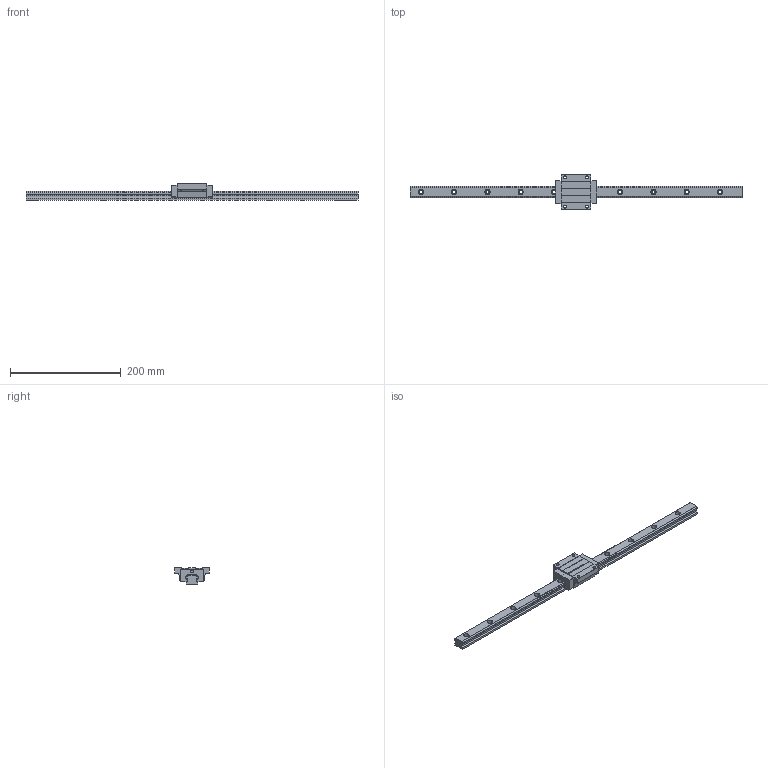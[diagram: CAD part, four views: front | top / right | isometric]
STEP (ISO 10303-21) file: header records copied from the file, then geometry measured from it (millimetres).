
FILE_DESCRIPTION (( 'STEP AP203' ), '1' );
FILE_NAME ('TRH20FN-XN.STEP', '2023-01-31T09:15:09', ( '' ), ( '' ), 'SwSTEP 2.0', 'SolidWorks 2019', '' );
FILE_SCHEMA (( 'CONFIG_CONTROL_DESIGN' ));
Length unit declared in the file: millimetre
Products named in the file (1): TRH20FN-XN
Bounding box: 600 x 63 x 30 mm (x, y, z)
Volume: 239401.7 mm3; surface area: 66052 mm2
Topology: 2 solids, 2 shells, 166 faces, 438 edges, 280 vertices
Faces by surface type: cylinder 84, plane 78, sphere 4
Entity records: 5559 total; most frequent: CARTESIAN_POINT 1233, DIRECTION 910, ORIENTED_EDGE 868, EDGE_CURVE 434, AXIS2_PLACEMENT_3D 327, VERTEX_POINT 280, VECTOR 256, LINE 256
